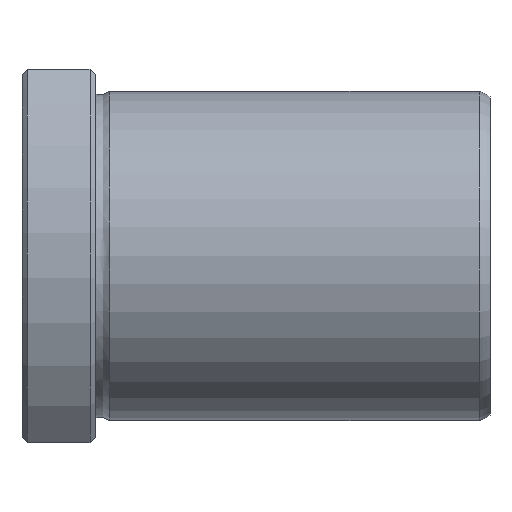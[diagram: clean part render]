
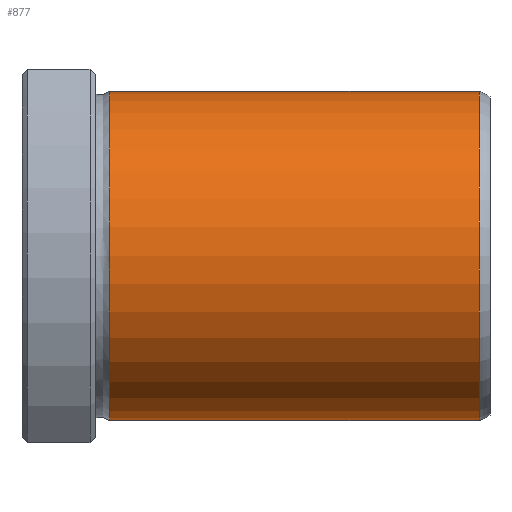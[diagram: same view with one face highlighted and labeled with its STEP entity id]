
A CAD part, top view. The second image highlights one B-rep face of the part: STEP entity #877.
In plain terms, the highlighted cylindrical face has radius 22.5 mm (diameter 45 mm), a full revolution.
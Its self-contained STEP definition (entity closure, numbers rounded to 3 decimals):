
#843=CARTESIAN_POINT('',(62.502,0.0,22.5));
#844=VERTEX_POINT('',#843);
#845=CARTESIAN_POINT('',(62.502,0.0,0.0));
#846=DIRECTION('',(-1.0,0.0,0.0));
#847=DIRECTION('',(0.0,0.0,1.0));
#848=AXIS2_PLACEMENT_3D('',#845,#846,#847);
#849=CIRCLE('',#848,22.5);
#850=EDGE_CURVE('',#844,#844,#849,.T.);
#858=CARTESIAN_POINT('',(37.262,0.0,0.0));
#859=DIRECTION('',(-1.0,0.0,0.0));
#860=DIRECTION('',(0.0,0.0,1.0));
#861=AXIS2_PLACEMENT_3D('',#858,#859,#860);
#862=CYLINDRICAL_SURFACE('',#861,22.5);
#863=CARTESIAN_POINT('',(12.023,0.0,22.5));
#864=VERTEX_POINT('',#863);
#865=CARTESIAN_POINT('',(12.023,0.0,0.0));
#866=DIRECTION('',(-1.0,0.0,0.0));
#867=DIRECTION('',(0.0,0.0,1.0));
#868=AXIS2_PLACEMENT_3D('',#865,#866,#867);
#869=CIRCLE('',#868,22.5);
#870=EDGE_CURVE('',#864,#864,#869,.T.);
#871=ORIENTED_EDGE('',*,*,#870,.F.);
#872=EDGE_LOOP('',(#871));
#873=FACE_OUTER_BOUND('',#872,.T.);
#874=ORIENTED_EDGE('',*,*,#850,.T.);
#875=EDGE_LOOP('',(#874));
#876=FACE_BOUND('',#875,.T.);
#877=ADVANCED_FACE('',(#873,#876),#862,.T.);
